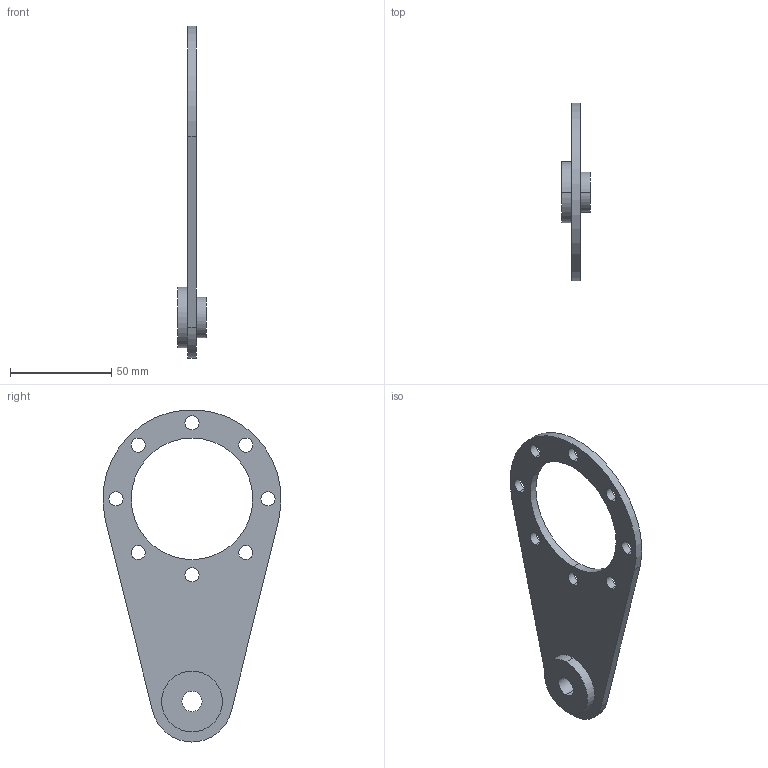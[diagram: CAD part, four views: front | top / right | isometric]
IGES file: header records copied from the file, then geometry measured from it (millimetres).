
Start section:  PTC IGES file: TAB40.igs
Global section: file name: TAB40.igs; native system: Pro/ENGINEER by Parametric Technology Corporation; preprocessor: 2011490; author: atrevisan; organization: Unknown; date: 20130827.185153; units: millimetre
Bounding box: 14 x 87.79 x 163.84 mm (x, y, z)
Volume: 32482.7 mm3; surface area: 18391.8 mm2
Topology: 1 solids, 1 shells, 32 faces, 84 edges, 56 vertices
Faces by surface type: revolution 26, bspline 6
